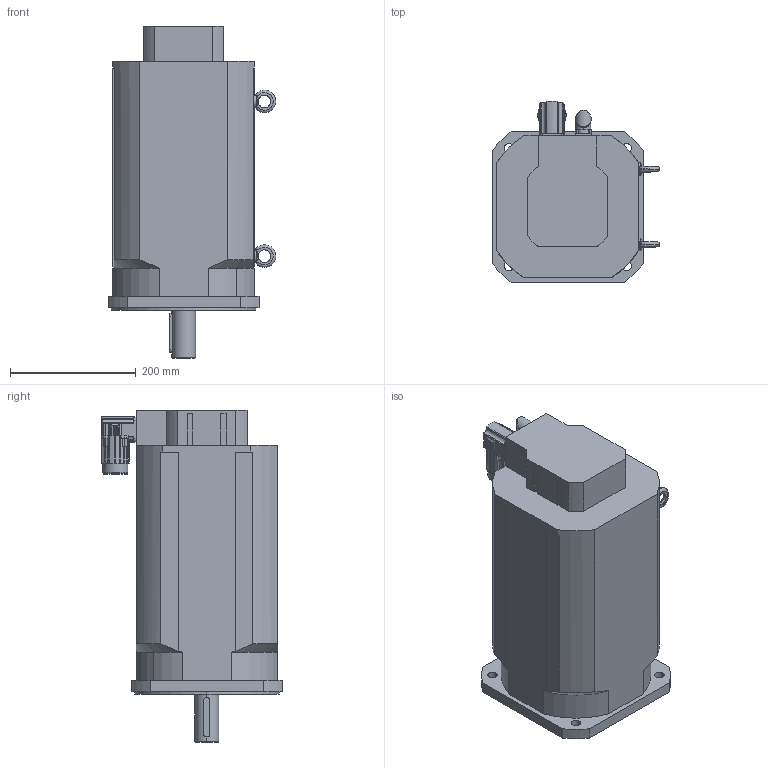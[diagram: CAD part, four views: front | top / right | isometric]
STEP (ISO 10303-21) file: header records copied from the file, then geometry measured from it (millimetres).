
FILE_DESCRIPTION(('STEP AP203'),'2;1');
FILE_NAME('MT8-0930_X.stp','2006-08-28T21:01:26',(''),(''),'2005.2.102','THINKDESIGN','');
FILE_SCHEMA(('CONFIG_CONTROL_DESIGN'));
Length unit declared in the file: millimetre
Bounding box: 266.5 x 287.18 x 528 mm (x, y, z)
Volume: 19937415.2 mm3; surface area: 521103 mm2
Topology: 5 solids, 5 shells, 534 faces, 1442 edges, 929 vertices
Faces by surface type: cylinder 259, plane 194, bspline 81
Full cylindrical faces by diameter (mm): 20 x2, 23 x1, 37.8 x1, 40 x1
Entity records: 19287 total; most frequent: CARTESIAN_POINT 5926, ORIENTED_EDGE 2872, DIRECTION 2774, EDGE_CURVE 1436, AXIS2_PLACEMENT_3D 1055, VERTEX_POINT 929, VECTOR 664, LINE 664
